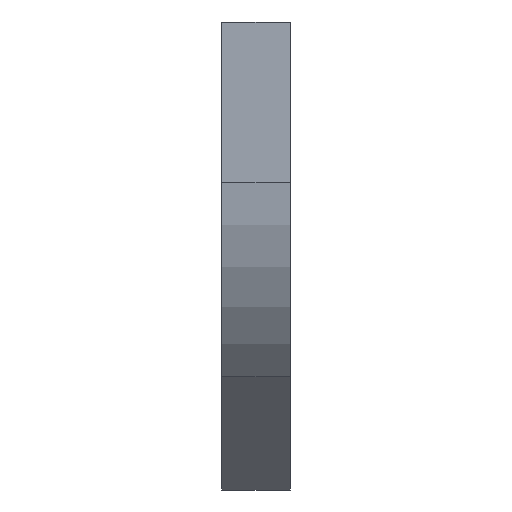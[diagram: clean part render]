
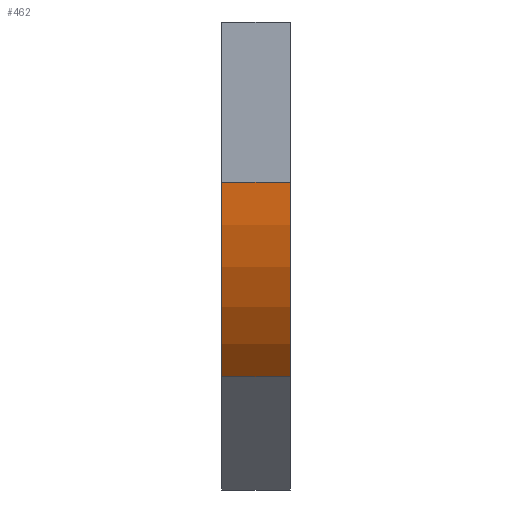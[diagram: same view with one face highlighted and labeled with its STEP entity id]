
A CAD part, left-side view. The second image highlights one B-rep face of the part: STEP entity #462.
In plain terms, the highlighted cylindrical face has radius 300 mm (diameter 600 mm), a partial arc.
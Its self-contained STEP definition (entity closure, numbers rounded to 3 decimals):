
#17 = EDGE_CURVE ( 'NONE', #608, #1244, #398, .T. ) ;
#105 = DIRECTION ( 'NONE',  ( 0., 0., -1. ) ) ;
#138 = EDGE_CURVE ( 'NONE', #608, #1700, #603, .T. ) ;
#147 = DIRECTION ( 'NONE',  ( 0., -1., 0. ) ) ;
#223 = EDGE_LOOP ( 'NONE', ( #1684, #304, #492, #1791 ) ) ;
#302 = LINE ( 'NONE', #846, #1349 ) ;
#304 = ORIENTED_EDGE ( 'NONE', *, *, #138, .F. ) ;
#398 = CIRCLE ( 'NONE', #1249, 300. ) ;
#462 = ADVANCED_FACE ( 'NONE', ( #1414 ), #949, .T. ) ;
#492 = ORIENTED_EDGE ( 'NONE', *, *, #17, .T. ) ;
#501 = CARTESIAN_POINT ( 'NONE',  ( 87.868, 75., -386.396 ) ) ;
#523 = CARTESIAN_POINT ( 'NONE',  ( 300., 0., -174.264 ) ) ;
#603 = LINE ( 'NONE', #1152, #1116 ) ;
#608 = VERTEX_POINT ( 'NONE', #897 ) ;
#642 = DIRECTION ( 'NONE',  ( -1., 0., 0. ) ) ;
#681 = AXIS2_PLACEMENT_3D ( 'NONE', #523, #1102, #105 ) ;
#846 = CARTESIAN_POINT ( 'NONE',  ( 87.868, 0., -386.396 ) ) ;
#897 = CARTESIAN_POINT ( 'NONE',  ( 0., 75., -174.264 ) ) ;
#949 = CYLINDRICAL_SURFACE ( 'NONE', #681, 300. ) ;
#984 = EDGE_CURVE ( 'NONE', #1700, #1026, #1180, .T. ) ;
#997 = EDGE_CURVE ( 'NONE', #1244, #1026, #302, .T. ) ;
#1026 = VERTEX_POINT ( 'NONE', #1455 ) ;
#1102 = DIRECTION ( 'NONE',  ( 0., -1., 0. ) ) ;
#1116 = VECTOR ( 'NONE', #147, 1000. ) ;
#1152 = CARTESIAN_POINT ( 'NONE',  ( 0., 0., -174.264 ) ) ;
#1168 = CARTESIAN_POINT ( 'NONE',  ( 0., 0., -174.264 ) ) ;
#1180 = CIRCLE ( 'NONE', #1681, 300. ) ;
#1244 = VERTEX_POINT ( 'NONE', #501 ) ;
#1249 = AXIS2_PLACEMENT_3D ( 'NONE', #1768, #1361, #642 ) ;
#1305 = DIRECTION ( 'NONE',  ( -1., 0., 0. ) ) ;
#1349 = VECTOR ( 'NONE', #1858, 1000. ) ;
#1361 = DIRECTION ( 'NONE',  ( 0., -1., 0. ) ) ;
#1414 = FACE_OUTER_BOUND ( 'NONE', #223, .T. ) ;
#1437 = CARTESIAN_POINT ( 'NONE',  ( 300., 0., -174.264 ) ) ;
#1455 = CARTESIAN_POINT ( 'NONE',  ( 87.868, 0., -386.396 ) ) ;
#1681 = AXIS2_PLACEMENT_3D ( 'NONE', #1437, #1854, #1305 ) ;
#1684 = ORIENTED_EDGE ( 'NONE', *, *, #984, .F. ) ;
#1700 = VERTEX_POINT ( 'NONE', #1168 ) ;
#1768 = CARTESIAN_POINT ( 'NONE',  ( 300., 75., -174.264 ) ) ;
#1791 = ORIENTED_EDGE ( 'NONE', *, *, #997, .T. ) ;
#1854 = DIRECTION ( 'NONE',  ( 0., -1., 0. ) ) ;
#1858 = DIRECTION ( 'NONE',  ( 0., -1., 0. ) ) ;
